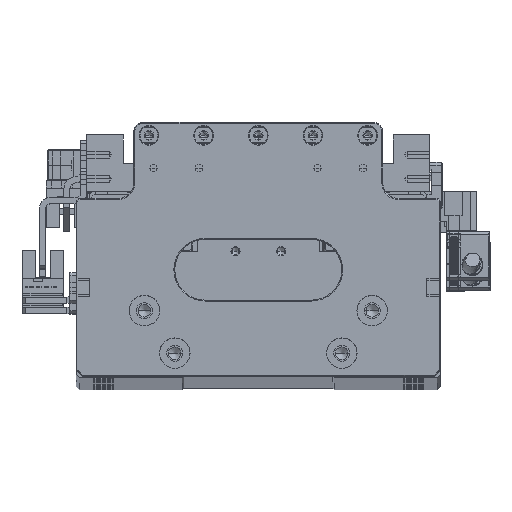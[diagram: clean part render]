
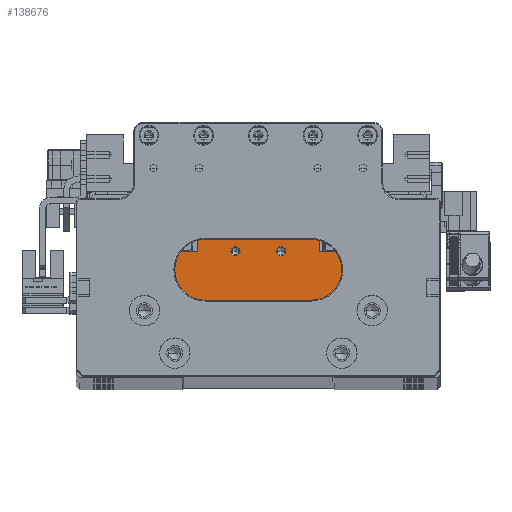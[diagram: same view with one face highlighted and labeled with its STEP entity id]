
A CAD part, top view. The second image highlights one B-rep face of the part: STEP entity #138676.
In plain terms, the highlighted planar face has unit normal (0, 0, 1).
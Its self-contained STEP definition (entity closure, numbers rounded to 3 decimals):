
#276 = VERTEX_POINT ( 'NONE', #20938 ) ;
#1293 = LINE ( 'NONE', #8592, #112720 ) ;
#2966 = EDGE_CURVE ( 'NONE', #78092, #20708, #135681, .T. ) ;
#3861 = CARTESIAN_POINT ( 'NONE',  ( -90.125, 78.98, 462.722 ) ) ;
#4357 = LINE ( 'NONE', #130063, #93185 ) ;
#4794 = CARTESIAN_POINT ( 'NONE',  ( -112.525, 78.98, 462.722 ) ) ;
#6044 = CARTESIAN_POINT ( 'NONE',  ( -90.125, 78.98, 462.722 ) ) ;
#8592 = CARTESIAN_POINT ( 'NONE',  ( -52.725, 71.48, 462.722 ) ) ;
#9540 = DIRECTION ( 'NONE',  ( 0., -1., 0. ) ) ;
#9983 = LINE ( 'NONE', #102892, #65703 ) ;
#11010 = CARTESIAN_POINT ( 'NONE',  ( -90.125, 79.08, 462.722 ) ) ;
#11140 = EDGE_LOOP ( 'NONE', ( #61058, #108753, #49881, #43461, #44429, #81895, #63481, #45799 ) ) ;
#14309 = DIRECTION ( 'NONE',  ( 0., 1., 0. ) ) ;
#14758 = FACE_BOUND ( 'NONE', #17086, .T. ) ;
#15089 = DIRECTION ( 'NONE',  ( 1., 0., 0. ) ) ;
#16557 = PLANE ( 'NONE',  #82482 ) ;
#17086 = EDGE_LOOP ( 'NONE', ( #141059, #85049 ) ) ;
#17262 = DIRECTION ( 'NONE',  ( 1., 0., 0. ) ) ;
#18348 = CARTESIAN_POINT ( 'NONE',  ( -112.525, 59.78, 462.722 ) ) ;
#20708 = VERTEX_POINT ( 'NONE', #98291 ) ;
#20938 = CARTESIAN_POINT ( 'NONE',  ( -52.725, 78.98, 462.722 ) ) ;
#22231 = DIRECTION ( 'NONE',  ( 1., 0., 0. ) ) ;
#24676 = CARTESIAN_POINT ( 'NONE',  ( -73.6, 79.08, 462.722 ) ) ;
#25287 = CARTESIAN_POINT ( 'NONE',  ( -62.625, 78.98, 462.722 ) ) ;
#29294 = CARTESIAN_POINT ( 'NONE',  ( -52.725, 59.78, 462.722 ) ) ;
#29751 = DIRECTION ( 'NONE',  ( 0., 0., 1. ) ) ;
#30183 = VECTOR ( 'NONE', #87559, 1000. ) ;
#36259 = DIRECTION ( 'NONE',  ( 0., 1., 0. ) ) ;
#38940 = DIRECTION ( 'NONE',  ( -1., 0., 0. ) ) ;
#39832 = VERTEX_POINT ( 'NONE', #69501 ) ;
#42485 = EDGE_CURVE ( 'NONE', #130961, #135001, #56294, .T. ) ;
#42921 = EDGE_CURVE ( 'NONE', #116252, #39832, #73566, .T. ) ;
#42993 = CARTESIAN_POINT ( 'NONE',  ( -88.6, 79.08, 462.722 ) ) ;
#43461 = ORIENTED_EDGE ( 'NONE', *, *, #100403, .F. ) ;
#43590 = EDGE_CURVE ( 'NONE', #113691, #101016, #115191, .T. ) ;
#44429 = ORIENTED_EDGE ( 'NONE', *, *, #94261, .F. ) ;
#45799 = ORIENTED_EDGE ( 'NONE', *, *, #2966, .F. ) ;
#45819 = EDGE_CURVE ( 'NONE', #50564, #98167, #4357, .T. ) ;
#46236 = CARTESIAN_POINT ( 'NONE',  ( -62.625, 82.98, 462.722 ) ) ;
#46867 = VECTOR ( 'NONE', #14309, 1000. ) ;
#47367 = CIRCLE ( 'NONE', #118050, 1.525 ) ;
#49221 = CARTESIAN_POINT ( 'NONE',  ( -75.125, 79.08, 462.722 ) ) ;
#49881 = ORIENTED_EDGE ( 'NONE', *, *, #45819, .T. ) ;
#50564 = VERTEX_POINT ( 'NONE', #18348 ) ;
#50981 = DIRECTION ( 'NONE',  ( 0., 0., 1. ) ) ;
#52191 = DIRECTION ( 'NONE',  ( 1., 0., 0. ) ) ;
#52554 = EDGE_CURVE ( 'NONE', #50564, #65794, #9983, .T. ) ;
#56294 = LINE ( 'NONE', #120704, #30183 ) ;
#58991 = LINE ( 'NONE', #3861, #144369 ) ;
#59294 = ORIENTED_EDGE ( 'NONE', *, *, #86261, .F. ) ;
#60369 = DIRECTION ( 'NONE',  ( 1., 0., 0. ) ) ;
#61058 = ORIENTED_EDGE ( 'NONE', *, *, #129253, .F. ) ;
#63481 = ORIENTED_EDGE ( 'NONE', *, *, #75607, .F. ) ;
#65703 = VECTOR ( 'NONE', #36259, 1000. ) ;
#65794 = VERTEX_POINT ( 'NONE', #4794 ) ;
#67764 = AXIS2_PLACEMENT_3D ( 'NONE', #96411, #29751, #107583 ) ;
#69501 = CARTESIAN_POINT ( 'NONE',  ( -76.65, 79.08, 462.722 ) ) ;
#70415 = FACE_OUTER_BOUND ( 'NONE', #11140, .T. ) ;
#73566 = CIRCLE ( 'NONE', #95480, 1.525 ) ;
#75607 = EDGE_CURVE ( 'NONE', #20708, #130961, #98622, .T. ) ;
#78092 = VERTEX_POINT ( 'NONE', #108078 ) ;
#81895 = ORIENTED_EDGE ( 'NONE', *, *, #42485, .F. ) ;
#82482 = AXIS2_PLACEMENT_3D ( 'NONE', #105077, #105553, #38940 ) ;
#85049 = ORIENTED_EDGE ( 'NONE', *, *, #43590, .F. ) ;
#85143 = VECTOR ( 'NONE', #17262, 1000. ) ;
#86261 = EDGE_CURVE ( 'NONE', #39832, #116252, #47367, .T. ) ;
#87559 = DIRECTION ( 'NONE',  ( 0., -1., 0. ) ) ;
#88847 = DIRECTION ( 'NONE',  ( 0., 0., 1. ) ) ;
#92135 = CARTESIAN_POINT ( 'NONE',  ( -102.625, 71.48, 462.722 ) ) ;
#93185 = VECTOR ( 'NONE', #52191, 1000. ) ;
#94261 = EDGE_CURVE ( 'NONE', #135001, #276, #58991, .T. ) ;
#95152 = VECTOR ( 'NONE', #106667, 1000. ) ;
#95480 = AXIS2_PLACEMENT_3D ( 'NONE', #117647, #50981, #128820 ) ;
#96411 = CARTESIAN_POINT ( 'NONE',  ( -90.125, 79.08, 462.722 ) ) ;
#97383 = AXIS2_PLACEMENT_3D ( 'NONE', #11010, #88847, #22231 ) ;
#98167 = VERTEX_POINT ( 'NONE', #29294 ) ;
#98291 = CARTESIAN_POINT ( 'NONE',  ( -102.625, 82.98, 462.722 ) ) ;
#98622 = LINE ( 'NONE', #117408, #95152 ) ;
#100007 = FACE_BOUND ( 'NONE', #123710, .T. ) ;
#100403 = EDGE_CURVE ( 'NONE', #276, #98167, #1293, .T. ) ;
#101016 = VERTEX_POINT ( 'NONE', #42993 ) ;
#102892 = CARTESIAN_POINT ( 'NONE',  ( -112.525, 71.48, 462.722 ) ) ;
#105077 = CARTESIAN_POINT ( 'NONE',  ( -90.125, 71.48, 462.722 ) ) ;
#105553 = DIRECTION ( 'NONE',  ( 0., 0., -1. ) ) ;
#106667 = DIRECTION ( 'NONE',  ( 1., 0., 0. ) ) ;
#107583 = DIRECTION ( 'NONE',  ( 1., 0., 0. ) ) ;
#108078 = CARTESIAN_POINT ( 'NONE',  ( -102.625, 78.98, 462.722 ) ) ;
#108753 = ORIENTED_EDGE ( 'NONE', *, *, #52554, .F. ) ;
#112720 = VECTOR ( 'NONE', #9540, 1000. ) ;
#113691 = VERTEX_POINT ( 'NONE', #129794 ) ;
#115191 = CIRCLE ( 'NONE', #97383, 1.525 ) ;
#116252 = VERTEX_POINT ( 'NONE', #24676 ) ;
#117408 = CARTESIAN_POINT ( 'NONE',  ( -90.125, 82.98, 462.722 ) ) ;
#117647 = CARTESIAN_POINT ( 'NONE',  ( -75.125, 79.08, 462.722 ) ) ;
#118050 = AXIS2_PLACEMENT_3D ( 'NONE', #49221, #127041, #60369 ) ;
#118289 = LINE ( 'NONE', #6044, #85143 ) ;
#120704 = CARTESIAN_POINT ( 'NONE',  ( -62.625, 71.48, 462.722 ) ) ;
#123194 = CIRCLE ( 'NONE', #67764, 1.525 ) ;
#123710 = EDGE_LOOP ( 'NONE', ( #138106, #59294 ) ) ;
#127041 = DIRECTION ( 'NONE',  ( 0., 0., 1. ) ) ;
#128820 = DIRECTION ( 'NONE',  ( 1., 0., 0. ) ) ;
#129253 = EDGE_CURVE ( 'NONE', #65794, #78092, #118289, .T. ) ;
#129794 = CARTESIAN_POINT ( 'NONE',  ( -91.65, 79.08, 462.722 ) ) ;
#130063 = CARTESIAN_POINT ( 'NONE',  ( -90.125, 59.78, 462.722 ) ) ;
#130674 = EDGE_CURVE ( 'NONE', #101016, #113691, #123194, .T. ) ;
#130961 = VERTEX_POINT ( 'NONE', #46236 ) ;
#135001 = VERTEX_POINT ( 'NONE', #25287 ) ;
#135681 = LINE ( 'NONE', #92135, #46867 ) ;
#138106 = ORIENTED_EDGE ( 'NONE', *, *, #42921, .F. ) ;
#138676 = ADVANCED_FACE ( 'NONE', ( #70415, #100007, #14758 ), #16557, .F. ) ;
#141059 = ORIENTED_EDGE ( 'NONE', *, *, #130674, .F. ) ;
#144369 = VECTOR ( 'NONE', #15089, 1000. ) ;
